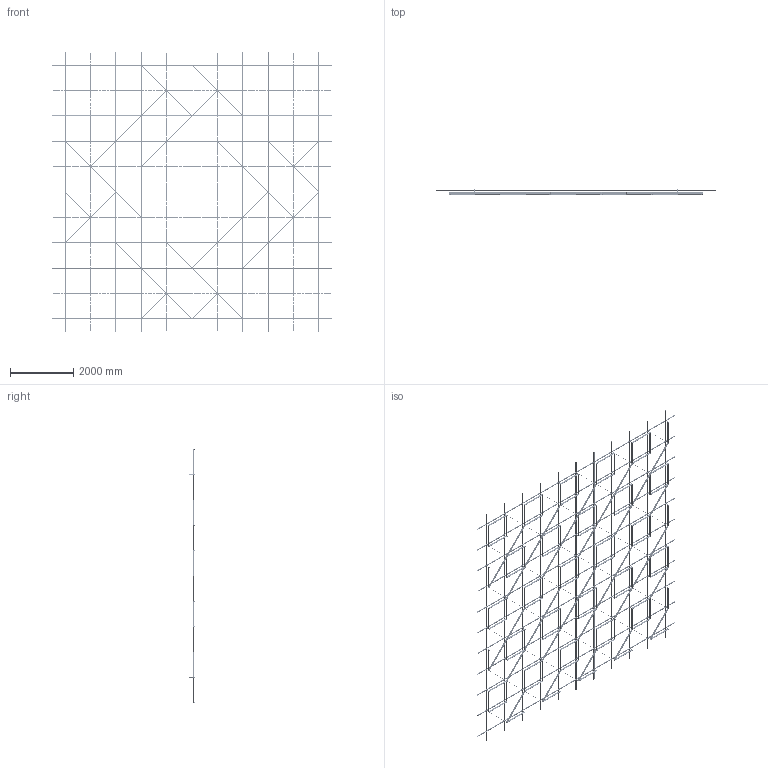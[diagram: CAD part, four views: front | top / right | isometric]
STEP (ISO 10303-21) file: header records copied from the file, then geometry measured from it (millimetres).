
FILE_DESCRIPTION (( 'STEP AP203' ), '1' );
FILE_NAME ('27 ìèíè ñ ïñ.step', '2025-11-25T13:13:30', ( '' ), ( '' ), 'SwSTEP 2.0', 'SolidWorks 2020', '' );
FILE_SCHEMA (( 'CONFIG_CONTROL_DESIGN' ));
Length unit declared in the file: millimetre
Products named in the file (5): SS.SEMA.2400 - Ñèìà-ïðîôèëü — îáðåçàí 1600; Ñèñòåìà â çîíå 8000õ8000; SS.SEMA.2400 - Ñèìà-ïðîôèëü; 謶鎷ar27; 27 ìèíè ñ ïñ
Assembly tree (90 placements, depth 3):
  27 ìèíè ñ ïñ
    Ñèñòåìà â çîíå 8000õ8000
      SS.SEMA.2400 - Ñèìà-ïðîôèëü  x66
      SS.SEMA.2400 - Ñèìà-ïðîôèëü — îáðåçàí 1600  x22
    謶鎷ar27
Bounding box: 8800 x 158 x 8800 mm (x, y, z)
Volume: 90685883.5 mm3; surface area: 49039721.8 mm2
Topology: 753 solids, 753 shells, 19530 faces, 52664 edges, 34640 vertices
Faces by surface type: cylinder 12818, plane 6712
Entity records: 84841 total; most frequent: CARTESIAN_POINT 19744, DIRECTION 12254, ORIENTED_EDGE 12176, EDGE_CURVE 6088, AXIS2_PLACEMENT_3D 5878, VERTEX_POINT 4048, EDGE_LOOP 3536, FACE_OUTER_BOUND 3374
